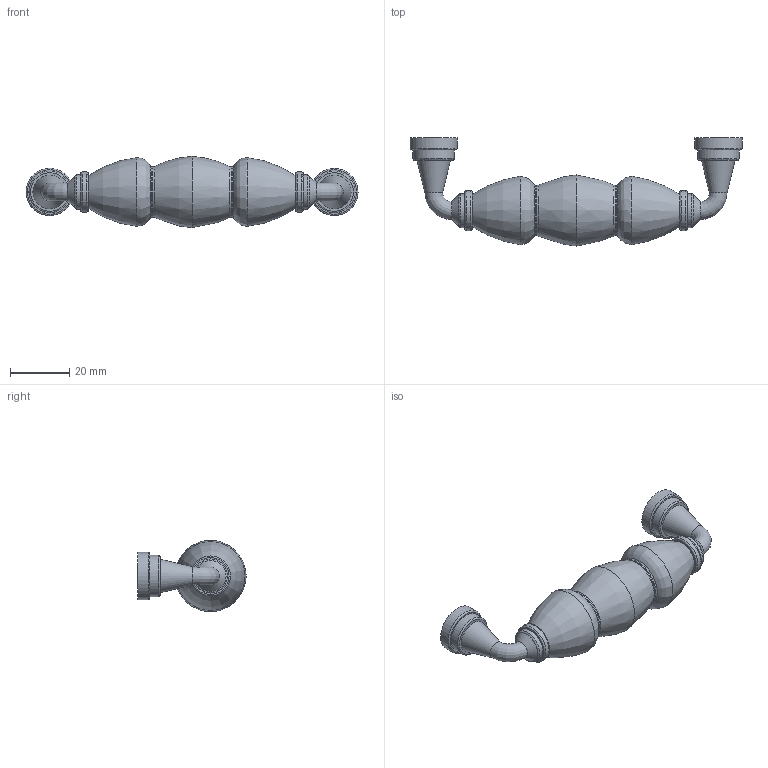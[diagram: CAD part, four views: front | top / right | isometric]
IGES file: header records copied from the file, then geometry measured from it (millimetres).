
Start section: Data from Parasolid IGES Translator 15.0.47, Copyright(c) 2006 Siemens P LM Software. All Rights Reserved.
Global section: file name: 9113550.igs; native system:  By UGS Corp.; preprocessor: XPlus GENERIC/IGES 3.0; author: Noname; organization: Noname; date: 20140122.104048; units: millimetre
Bounding box: 112 x 36.5 x 24 mm (x, y, z)
Surface area: 7935.1 mm2 (no closed solid volume)
Topology: 0 solids, 0 shells, 50 faces, 184 edges, 127 vertices
Faces by surface type: revolution 38, extrusion 12
